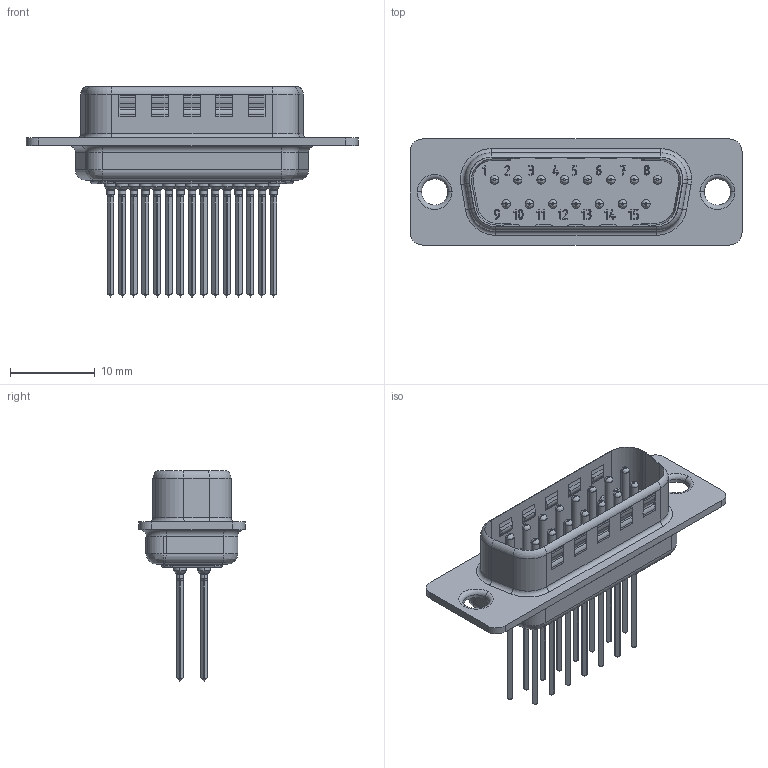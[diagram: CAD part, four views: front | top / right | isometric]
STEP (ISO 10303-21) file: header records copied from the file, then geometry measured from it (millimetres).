
FILE_DESCRIPTION(/* description */ (''),/* implementation_level */ '2;1');
FILE_NAME(/* name */ '100222593ugm000_c.stp',/* time_stamp */ '2018-04-16T11:00:42+02:00',/* author */ (''),/* organization */ (''),/* preprocessor_version */ 'ST-DEVELOPER v16',/* originating_system */ 'SIEMENS PLM Software NX 10.0',/* authorisation */ '');
FILE_SCHEMA (('AUTOMOTIVE_DESIGN { 1 0 10303 214 3 1 1 1 }'));
Products named in the file (1): 100222593ugm000_c
Bounding box: 39.1 x 12.5 x 24.75 mm (x, y, z)
Volume: 1853.1 mm3; surface area: 2871.3 mm2
Topology: 1 solids, 1 shells, 1729 faces, 4485 edges, 2896 vertices
Faces by surface type: plane 647, bspline 609, cylinder 330, cone 70, torus 59, sphere 8, extrusion 6
Full cylindrical faces by diameter (mm): 0.134 x1, 0.197 x1
Entity records: 82363 total; most frequent: CARTESIAN_POINT 34255, ORIENTED_EDGE 8966, DIRECTION 6003, EDGE_CURVE 4483, VERTEX_POINT 2895, VECTOR 2213, LINE 2207, AXIS2_PLACEMENT_3D 1895
